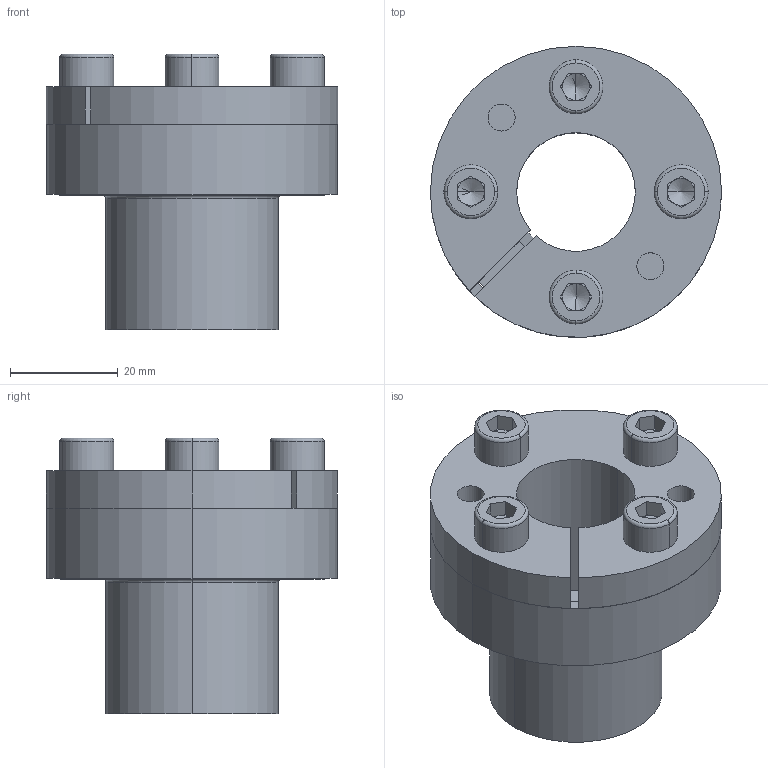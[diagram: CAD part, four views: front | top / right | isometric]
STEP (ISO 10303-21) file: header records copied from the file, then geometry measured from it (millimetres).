
FILE_DESCRIPTION (( 'STEP AP214' ), '1' );
FILE_NAME ('CONEX-B-22x32.step', '2013-04-04T12:41:33', ( 'Pc' ), ( '' ), 'SwSTEP 2.0', 'SolidWorks 2013', '' );
FILE_SCHEMA (( 'AUTOMOTIVE_DESIGN' ));
Length unit declared in the file: millimetre
Products named in the file (1): CONEX-B-22x32
Bounding box: 54 x 54 x 51.11 mm (x, y, z)
Volume: 42662.9 mm3; surface area: 28421.9 mm2
Topology: 7 solids, 7 shells, 168 faces, 390 edges, 236 vertices
Faces by surface type: plane 72, cylinder 52, torus 22, cone 22
Entity records: 6752 total; most frequent: DIRECTION 902, CARTESIAN_POINT 847, ORIENTED_EDGE 764, EDGE_CURVE 382, AXIS2_PLACEMENT_3D 359, VERTEX_POINT 236, EDGE_LOOP 198, CIRCLE 190
